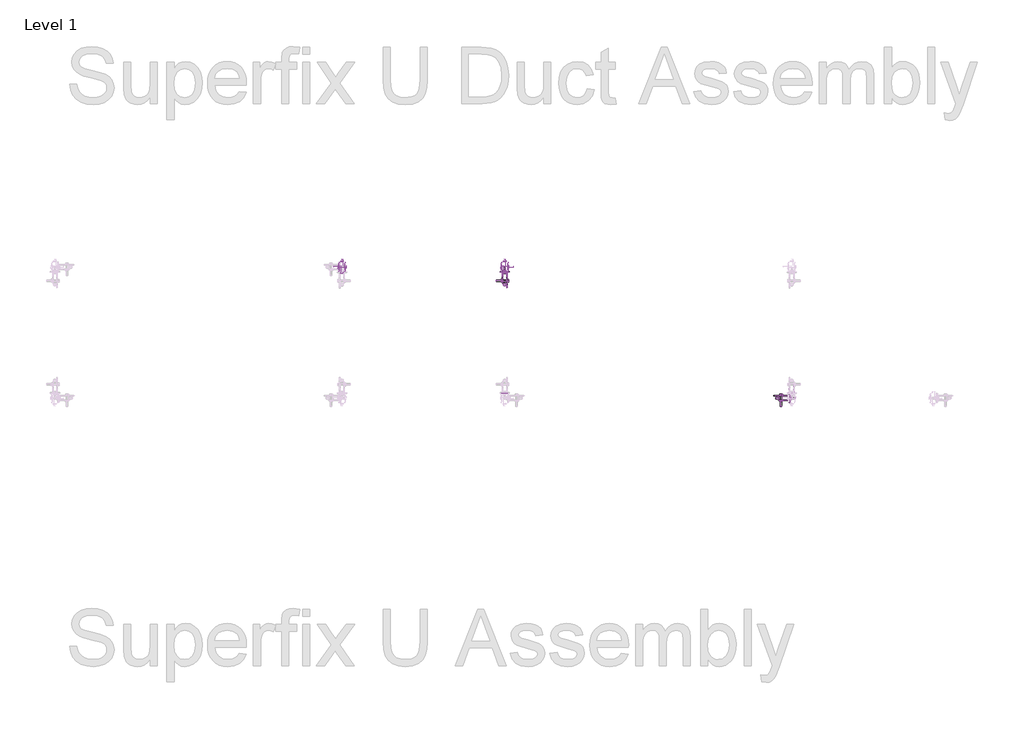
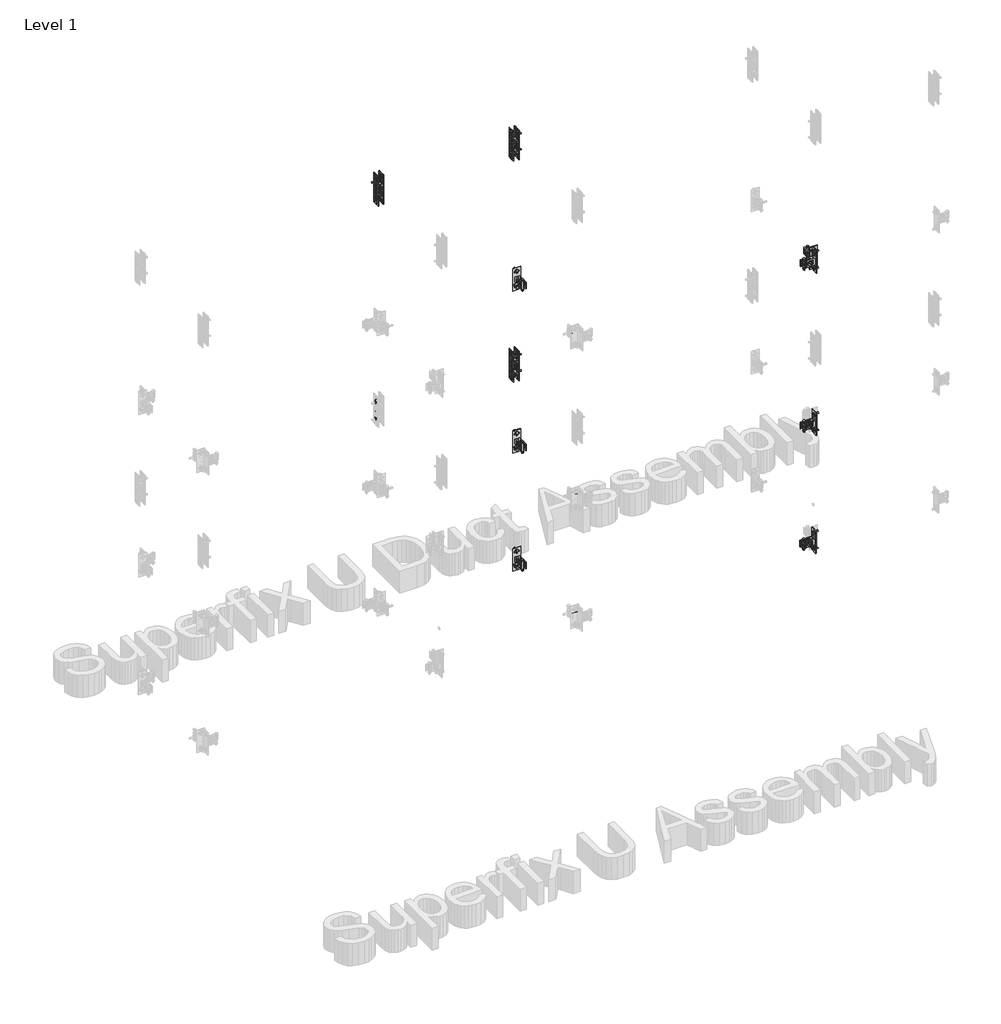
# One storey, part 12 of 32: 144 valves.
"""IFC4 building model written with IfcOpenShell, lengths in millimetres."""

from ifc_helpers import new_model, si_unit, origin, place, context, project, spatial, transform, mapped, element, save
from components import valve_fad8a5b8, hexagon_nut_galvanized_extra_m8_53389388, superfix_hexagon_screw_galvanized_8354a985, superfix_hexagon_screw_galvanized_f0d66714, superfix_hexagon_screw_galvanized_68d17cb7, superfix_hexagon_screw_galvanized_e39b877e, superfix_hexagon_screw_galvanized_3ef5af78, superfix_hexagon_screw_galvanized_3d7df342, superfix_strap_981cfdac, superfix_u_658711f6, superfix_u_31397e19, superfix_u_bracket_h_0b8578fe, superfix_u_bracket_h_f60a1122

model = new_model("IFC4")

# Units and contexts
model_context = context("Model", 3, world=origin())
ifc_project = project(units=[si_unit("LENGTHUNIT", "METRE", prefix="MILLI")], contexts=[model_context])

# Site, building, storey
site = spatial("IfcSite", under=ifc_project)
building = spatial("IfcBuilding", under=site)
storey = spatial("IfcBuildingStorey", under=building, Name="Level 1", Elevation=0.0)

# Valves
placement = place(None, origin())
valve_shape = valve_fad8a5b8(model_context)
element("IfcValve", 1, ObjectType="Superfix Flat Washer : Superfix Flat Washer M8x15x1.5", at=placement, inside=storey, context=model_context, shape_type="MappedRepresentation", body=[
    mapped(valve_shape, transform((-18766.450626, 28765.46055, 700.0), x_axis=(1.0, 0.0, 0.0), y_axis=(0.0, 0.0, 1.0), z_axis=(0.0, -1.0, 0.0))),
])
element("IfcValve", 2, ObjectType="Superfix Flat Washer : Superfix Flat Washer M8x15x1.5", at=placement, inside=storey, context=model_context, shape_type="MappedRepresentation", body=[
    mapped(valve_shape, transform((-18715.450626, 28777.96055, 758.0), x_axis=(0.0, 0.0, 1.0), y_axis=(0.0, 1.0, 0.0), z_axis=(-1.0, 0.0, 0.0))),
])
element("IfcValve", 3, ObjectType="Superfix Flat Washer : Superfix Flat Washer M8x15x1.5", at=placement, inside=storey, context=model_context, shape_type="MappedRepresentation", body=[
    mapped(valve_shape, transform((-18715.450626, 28777.96055, 642.0), x_axis=(0.0, 0.0, 1.0), y_axis=(0.0, 1.0, 0.0), z_axis=(-1.0, 0.0, 0.0))),
])
element("IfcValve", 4, ObjectType="Superfix Flat Washer : Superfix Flat Washer M8x15x1.5", at=placement, inside=storey, context=model_context, shape_type="MappedRepresentation", body=[
    mapped(valve_shape, transform((-18786.450626, 28777.96055, 671.5), x_axis=(1.0, 0.0, 0.0), y_axis=(0.0, -1.0, 0.0), z_axis=(0.0, 0.0, -1.0))),
])
element("IfcValve", 5, ObjectType="Superfix Flat Washer : Superfix Flat Washer M8x15x1.5", at=placement, inside=storey, context=model_context, shape_type="MappedRepresentation", body=[
    mapped(valve_shape, transform((-18763.450626, 28765.46055, 2600.0), x_axis=(1.0, 0.0, 0.0), y_axis=(0.0, 0.0, 1.0), z_axis=(0.0, -1.0, 0.0))),
])
element("IfcValve", 6, ObjectType="Superfix Flat Washer : Superfix Flat Washer M8x15x1.5", at=placement, inside=storey, context=model_context, shape_type="MappedRepresentation", body=[
    mapped(valve_shape, transform((-18712.450626, 28777.96055, 2658.0), x_axis=(0.0, 0.0, 1.0), y_axis=(0.0, 1.0, 0.0), z_axis=(-1.0, 0.0, 0.0))),
])
element("IfcValve", 7, ObjectType="Superfix Flat Washer : Superfix Flat Washer M8x15x1.5", at=placement, inside=storey, context=model_context, shape_type="MappedRepresentation", body=[
    mapped(valve_shape, transform((-18712.450626, 28777.96055, 2542.0), x_axis=(0.0, 0.0, 1.0), y_axis=(0.0, 1.0, 0.0), z_axis=(-1.0, 0.0, 0.0))),
])
element("IfcValve", 8, ObjectType="Superfix Flat Washer : Superfix Flat Washer M8x15x1.5", at=placement, inside=storey, context=model_context, shape_type="MappedRepresentation", body=[
    mapped(valve_shape, transform((-18783.450626, 28777.96055, 2571.5), x_axis=(1.0, 0.0, 0.0), y_axis=(0.0, -1.0, 0.0), z_axis=(0.0, 0.0, -1.0))),
])
element("IfcValve", 9, ObjectType="Superfix Flat Washer : Superfix Flat Washer M8x15x1.5", at=placement, inside=storey, context=model_context, shape_type="MappedRepresentation", body=[
    mapped(valve_shape, transform((-18763.450626, 28765.46055, 1500.0), x_axis=(1.0, 0.0, 0.0), y_axis=(0.0, 0.0, 1.0), z_axis=(0.0, -1.0, 0.0))),
])
element("IfcValve", 10, ObjectType="Superfix Flat Washer : Superfix Flat Washer M8x15x1.5", at=placement, inside=storey, context=model_context, shape_type="MappedRepresentation", body=[
    mapped(valve_shape, transform((-18712.450626, 28777.96055, 1558.0), x_axis=(0.0, 0.0, 1.0), y_axis=(0.0, 1.0, 0.0), z_axis=(-1.0, 0.0, 0.0))),
])
element("IfcValve", 11, ObjectType="Superfix Flat Washer : Superfix Flat Washer M8x15x1.5", at=placement, inside=storey, context=model_context, shape_type="MappedRepresentation", body=[
    mapped(valve_shape, transform((-18712.450626, 28777.96055, 1442.0), x_axis=(0.0, 0.0, 1.0), y_axis=(0.0, 1.0, 0.0), z_axis=(-1.0, 0.0, 0.0))),
])
element("IfcValve", 12, ObjectType="Superfix Flat Washer : Superfix Flat Washer M8x15x1.5", at=placement, inside=storey, context=model_context, shape_type="MappedRepresentation", body=[
    mapped(valve_shape, transform((-18783.450626, 28777.96055, 1471.5), x_axis=(1.0, 0.0, 0.0), y_axis=(0.0, -1.0, 0.0), z_axis=(0.0, 0.0, -1.0))),
])
element("IfcValve", 13, ObjectType="Superfix Flat Washer : Superfix Flat Washer M8x15x1.5", at=placement, inside=storey, context=model_context, shape_type="MappedRepresentation", body=[
    mapped(valve_shape, transform((-18695.950626, 28851.96055, 2600.0), x_axis=(0.0, 1.0, 0.0), y_axis=(0.0, 0.0, 1.0), z_axis=(1.0, 0.0, 0.0))),
])
element("IfcValve", 14, ObjectType="Superfix Flat Washer : Superfix Flat Washer M8x15x1.5", at=placement, inside=storey, context=model_context, shape_type="MappedRepresentation", body=[
    mapped(valve_shape, transform((-18708.450626, 28802.56055, 2542.0), x_axis=(0.0, 0.0, 1.0), y_axis=(-1.0, 0.0, 0.0), z_axis=(0.0, -1.0, 0.0))),
])
element("IfcValve", 15, ObjectType="Superfix Flat Washer : Superfix Flat Washer M8x15x1.5", at=placement, inside=storey, context=model_context, shape_type="MappedRepresentation", body=[
    mapped(valve_shape, transform((-18708.450626, 28802.56055, 2658.0), x_axis=(0.0, 0.0, 1.0), y_axis=(-1.0, 0.0, 0.0), z_axis=(0.0, -1.0, 0.0))),
])
element("IfcValve", 16, ObjectType="Superfix Flat Washer : Superfix Flat Washer M8x15x1.5", at=placement, inside=storey, context=model_context, shape_type="MappedRepresentation", body=[
    mapped(valve_shape, transform((-18708.450626, 28871.96055, 2571.5), x_axis=(0.0, 1.0, 0.0), y_axis=(1.0, 0.0, 0.0), z_axis=(0.0, 0.0, -1.0))),
])
element("IfcValve", 17, ObjectType="Superfix Flat Washer : Superfix Flat Washer M8x15x1.5", at=placement, inside=storey, context=model_context, shape_type="MappedRepresentation", body=[
    mapped(valve_shape, transform((-20252.950626, 29403.96055, 2600.0), x_axis=(0.0, -1.0, 0.0), y_axis=(0.0, 0.0, 1.0), z_axis=(-1.0, 0.0, 0.0))),
])
element("IfcValve", 18, ObjectType="Superfix Flat Washer : Superfix Flat Washer M8x15x1.5", at=placement, inside=storey, context=model_context, shape_type="MappedRepresentation", body=[
    mapped(valve_shape, transform((-20240.450626, 29453.36055, 2542.0), x_axis=(0.0, 0.0, 1.0), y_axis=(1.0, 0.0, 0.0), z_axis=(0.0, 1.0, 0.0))),
])
element("IfcValve", 19, ObjectType="Superfix Flat Washer : Superfix Flat Washer M8x15x1.5", at=placement, inside=storey, context=model_context, shape_type="MappedRepresentation", body=[
    mapped(valve_shape, transform((-20240.450626, 29453.36055, 2658.0), x_axis=(0.0, 0.0, 1.0), y_axis=(1.0, 0.0, 0.0), z_axis=(0.0, 1.0, 0.0))),
])
element("IfcValve", 20, ObjectType="Superfix Flat Washer : Superfix Flat Washer M8x15x1.5", at=placement, inside=storey, context=model_context, shape_type="MappedRepresentation", body=[
    mapped(valve_shape, transform((-20240.450626, 29383.96055, 2571.5), x_axis=(0.0, -1.0, 0.0), y_axis=(-1.0, 0.0, 0.0), z_axis=(0.0, 0.0, -1.0))),
])
element("IfcValve", 21, ObjectType="Superfix Flat Washer : Superfix Flat Washer M8x15x1.5", at=placement, inside=storey, context=model_context, shape_type="MappedRepresentation", body=[
    mapped(valve_shape, transform((-20252.950626, 29403.96055, 1500.0), x_axis=(0.0, -1.0, 0.0), y_axis=(0.0, 0.0, 1.0), z_axis=(-1.0, 0.0, 0.0))),
])
element("IfcValve", 22, ObjectType="Superfix Flat Washer : Superfix Flat Washer M8x15x1.5", at=placement, inside=storey, context=model_context, shape_type="MappedRepresentation", body=[
    mapped(valve_shape, transform((-20240.450626, 29453.36055, 1442.0), x_axis=(0.0, 0.0, 1.0), y_axis=(1.0, 0.0, 0.0), z_axis=(0.0, 1.0, 0.0))),
])
element("IfcValve", 23, ObjectType="Superfix Flat Washer : Superfix Flat Washer M8x15x1.5", at=placement, inside=storey, context=model_context, shape_type="MappedRepresentation", body=[
    mapped(valve_shape, transform((-20240.450626, 29453.36055, 1558.0), x_axis=(0.0, 0.0, 1.0), y_axis=(1.0, 0.0, 0.0), z_axis=(0.0, 1.0, 0.0))),
])
element("IfcValve", 24, ObjectType="Superfix Flat Washer : Superfix Flat Washer M8x15x1.5", at=placement, inside=storey, context=model_context, shape_type="MappedRepresentation", body=[
    mapped(valve_shape, transform((-20240.450626, 29383.96055, 1471.5), x_axis=(0.0, -1.0, 0.0), y_axis=(-1.0, 0.0, 0.0), z_axis=(0.0, 0.0, -1.0))),
])
element("IfcValve", 25, ObjectType="Superfix Flat Washer : Superfix Flat Washer M8x15x1.5", at=placement, inside=storey, context=model_context, shape_type="MappedRepresentation", body=[
    mapped(valve_shape, transform((-20252.950626, 29404.96055, 700.0), x_axis=(0.0, -1.0, 0.0), y_axis=(0.0, 0.0, 1.0), z_axis=(-1.0, 0.0, 0.0))),
])
element("IfcValve", 26, ObjectType="Superfix Flat Washer : Superfix Flat Washer M8x15x1.5", at=placement, inside=storey, context=model_context, shape_type="MappedRepresentation", body=[
    mapped(valve_shape, transform((-20240.450626, 29454.36055, 642.0), x_axis=(0.0, 0.0, 1.0), y_axis=(1.0, 0.0, 0.0), z_axis=(0.0, 1.0, 0.0))),
])
element("IfcValve", 27, ObjectType="Superfix Flat Washer : Superfix Flat Washer M8x15x1.5", at=placement, inside=storey, context=model_context, shape_type="MappedRepresentation", body=[
    mapped(valve_shape, transform((-20240.450626, 29454.36055, 758.0), x_axis=(0.0, 0.0, 1.0), y_axis=(1.0, 0.0, 0.0), z_axis=(0.0, 1.0, 0.0))),
])
element("IfcValve", 28, ObjectType="Superfix Flat Washer : Superfix Flat Washer M8x15x1.5", at=placement, inside=storey, context=model_context, shape_type="MappedRepresentation", body=[
    mapped(valve_shape, transform((-20240.450626, 29384.96055, 671.5), x_axis=(0.0, -1.0, 0.0), y_axis=(-1.0, 0.0, 0.0), z_axis=(0.0, 0.0, -1.0))),
])
element("IfcValve", 29, ObjectType="Superfix Flat Washer : Superfix Flat Washer M8x15x1.5", at=placement, inside=storey, context=model_context, shape_type="MappedRepresentation", body=[
    mapped(valve_shape, transform((-21108.450626, 29508.06055, 2040.0), x_axis=(1.0, 0.0, 0.0), y_axis=(0.0, 0.0, 1.0), z_axis=(0.0, -1.0, 0.0))),
])
element("IfcValve", 30, ObjectType="Superfix Flat Washer : Superfix Flat Washer M8x15x1.5", at=placement, inside=storey, context=model_context, shape_type="MappedRepresentation", body=[
    mapped(valve_shape, transform((-21108.450626, 29508.06055, 1960.0), x_axis=(1.0, 0.0, 0.0), y_axis=(0.0, 0.0, 1.0), z_axis=(0.0, -1.0, 0.0))),
])
element("IfcValve", 31, ObjectType="Superfix Flat Washer : Superfix Flat Washer M8x15x1.5", at=placement, inside=storey, context=model_context, shape_type="MappedRepresentation", body=[
    mapped(valve_shape, transform((-21126.050626, 29477.96055, 3555.0), x_axis=(0.0, 1.0, 0.0), y_axis=(0.0, 0.0, 1.0), z_axis=(1.0, 0.0, 0.0))),
])
element("IfcValve", 32, ObjectType="Superfix Flat Washer : Superfix Flat Washer M8x15x1.5", at=placement, inside=storey, context=model_context, shape_type="MappedRepresentation", body=[
    mapped(valve_shape, transform((-21126.050626, 29477.96055, 3445.0), x_axis=(0.0, 1.0, 0.0), y_axis=(0.0, 0.0, 1.0), z_axis=(1.0, 0.0, 0.0))),
])
element("IfcValve", 33, ObjectType="Superfix Flat Washer : Superfix Flat Washer M8x15x1.5", at=placement, inside=storey, context=model_context, shape_type="MappedRepresentation", body=[
    mapped(valve_shape, transform((-21108.450626, 29508.06055, 3540.0), x_axis=(1.0, 0.0, 0.0), y_axis=(0.0, 0.0, 1.0), z_axis=(0.0, -1.0, 0.0))),
])
element("IfcValve", 34, ObjectType="Superfix Flat Washer : Superfix Flat Washer M8x15x1.5", at=placement, inside=storey, context=model_context, shape_type="MappedRepresentation", body=[
    mapped(valve_shape, transform((-21108.450626, 29508.06055, 3460.0), x_axis=(1.0, 0.0, 0.0), y_axis=(0.0, 0.0, 1.0), z_axis=(0.0, -1.0, 0.0))),
])
element("IfcValve", 35, ObjectType="Superfix Flat Washer : Superfix Flat Washer M8x15x1.5", at=placement, inside=storey, context=model_context, shape_type="MappedRepresentation", body=[
    mapped(valve_shape, transform((-20224.450626, 29477.96055, 1945.0), x_axis=(0.0, 1.0, 0.0), y_axis=(0.0, 0.0, 1.0), z_axis=(1.0, 0.0, 0.0))),
])
element("IfcValve", 36, ObjectType="Superfix Flat Washer : Superfix Flat Washer M8x15x1.5", at=placement, inside=storey, context=model_context, shape_type="MappedRepresentation", body=[
    mapped(valve_shape, transform((-20224.450626, 29477.96055, 2055.0), x_axis=(0.0, 1.0, 0.0), y_axis=(0.0, 0.0, 1.0), z_axis=(1.0, 0.0, 0.0))),
])
element("IfcValve", 37, ObjectType="Superfix Flat Washer : Superfix Flat Washer M8x15x1.5", at=placement, inside=storey, context=model_context, shape_type="MappedRepresentation", body=[
    mapped(valve_shape, transform((-20240.450626, 29508.06055, 2040.0), x_axis=(1.0, 0.0, 0.0), y_axis=(0.0, 0.0, 1.0), z_axis=(0.0, -1.0, 0.0))),
])
element("IfcValve", 38, ObjectType="Superfix Flat Washer : Superfix Flat Washer M8x15x1.5", at=placement, inside=storey, context=model_context, shape_type="MappedRepresentation", body=[
    mapped(valve_shape, transform((-20240.450626, 29508.06055, 1960.0), x_axis=(1.0, 0.0, 0.0), y_axis=(0.0, 0.0, 1.0), z_axis=(0.0, -1.0, 0.0))),
])
element("IfcValve", 39, ObjectType="Superfix Flat Washer : Superfix Flat Washer M8x15x1.5", at=placement, inside=storey, context=model_context, shape_type="MappedRepresentation", body=[
    mapped(valve_shape, transform((-20224.450626, 29477.96055, 3445.0), x_axis=(0.0, 1.0, 0.0), y_axis=(0.0, 0.0, 1.0), z_axis=(1.0, 0.0, 0.0))),
])
element("IfcValve", 40, ObjectType="Superfix Flat Washer : Superfix Flat Washer M8x15x1.5", at=placement, inside=storey, context=model_context, shape_type="MappedRepresentation", body=[
    mapped(valve_shape, transform((-20224.450626, 29477.96055, 3555.0), x_axis=(0.0, 1.0, 0.0), y_axis=(0.0, 0.0, 1.0), z_axis=(1.0, 0.0, 0.0))),
])
element("IfcValve", 41, ObjectType="Superfix Flat Washer : Superfix Flat Washer M8x15x1.5", at=placement, inside=storey, context=model_context, shape_type="MappedRepresentation", body=[
    mapped(valve_shape, transform((-20240.450626, 29508.06055, 3540.0), x_axis=(1.0, 0.0, 0.0), y_axis=(0.0, 0.0, 1.0), z_axis=(0.0, -1.0, 0.0))),
])
element("IfcValve", 42, ObjectType="Superfix Flat Washer : Superfix Flat Washer M8x15x1.5", at=placement, inside=storey, context=model_context, shape_type="MappedRepresentation", body=[
    mapped(valve_shape, transform((-20240.450626, 29508.06055, 3460.0), x_axis=(1.0, 0.0, 0.0), y_axis=(0.0, 0.0, 1.0), z_axis=(0.0, -1.0, 0.0))),
])
hexagon_nut_galvanized_extra_m8_shape = hexagon_nut_galvanized_extra_m8_53389388(model_context)
element("IfcValve", 43, ObjectType="Superfix Hexagon Nut Galvanized : Hexagon Nut Galvanized M8", at=placement, inside=storey, context=model_context, shape_type="MappedRepresentation", body=[
    mapped(hexagon_nut_galvanized_extra_m8_shape, transform((-18766.450626, 28765.46055, 700.0), x_axis=(1.0, 0.0, 0.0), y_axis=(0.0, 0.0, 1.0), z_axis=(0.0, -1.0, 0.0))),
])
element("IfcValve", 44, ObjectType="Superfix Hexagon Nut Galvanized : Hexagon Nut Galvanized M8", at=placement, inside=storey, context=model_context, shape_type="MappedRepresentation", body=[
    mapped(hexagon_nut_galvanized_extra_m8_shape, transform((-18786.450626, 28777.96055, 665.0), x_axis=(0.0, 1.0, 0.0), y_axis=(-1.0, 0.0, 0.0), z_axis=(0.0, 0.0, 1.0))),
])
element("IfcValve", 45, ObjectType="Superfix Hexagon Nut Galvanized : Hexagon Nut Galvanized M8", at=placement, inside=storey, context=model_context, shape_type="MappedRepresentation", body=[
    mapped(hexagon_nut_galvanized_extra_m8_shape, transform((-18708.950626, 28777.96055, 642.0), x_axis=(0.0, 0.0, 1.0), y_axis=(0.0, 1.0, 0.0), z_axis=(-1.0, 0.0, 0.0))),
])
element("IfcValve", 46, ObjectType="Superfix Hexagon Nut Galvanized : Hexagon Nut Galvanized M8", at=placement, inside=storey, context=model_context, shape_type="MappedRepresentation", body=[
    mapped(hexagon_nut_galvanized_extra_m8_shape, transform((-18708.950626, 28777.96055, 758.0), x_axis=(0.0, 0.0, 1.0), y_axis=(0.0, 1.0, 0.0), z_axis=(-1.0, 0.0, 0.0))),
])
element("IfcValve", 47, ObjectType="Superfix Hexagon Nut Galvanized : Hexagon Nut Galvanized M8", at=placement, inside=storey, context=model_context, shape_type="MappedRepresentation", body=[
    mapped(hexagon_nut_galvanized_extra_m8_shape, transform((-18763.450626, 28765.46055, 2600.0), x_axis=(1.0, 0.0, 0.0), y_axis=(0.0, 0.0, 1.0), z_axis=(0.0, -1.0, 0.0))),
])
element("IfcValve", 48, ObjectType="Superfix Hexagon Nut Galvanized : Hexagon Nut Galvanized M8", at=placement, inside=storey, context=model_context, shape_type="MappedRepresentation", body=[
    mapped(hexagon_nut_galvanized_extra_m8_shape, transform((-18783.450626, 28777.96055, 2565.0), x_axis=(0.0, 1.0, 0.0), y_axis=(-1.0, 0.0, 0.0), z_axis=(0.0, 0.0, 1.0))),
])
element("IfcValve", 49, ObjectType="Superfix Hexagon Nut Galvanized : Hexagon Nut Galvanized M8", at=placement, inside=storey, context=model_context, shape_type="MappedRepresentation", body=[
    mapped(hexagon_nut_galvanized_extra_m8_shape, transform((-18705.950626, 28777.96055, 2542.0), x_axis=(0.0, 0.0, 1.0), y_axis=(0.0, 1.0, 0.0), z_axis=(-1.0, 0.0, 0.0))),
])
element("IfcValve", 50, ObjectType="Superfix Hexagon Nut Galvanized : Hexagon Nut Galvanized M8", at=placement, inside=storey, context=model_context, shape_type="MappedRepresentation", body=[
    mapped(hexagon_nut_galvanized_extra_m8_shape, transform((-18705.950626, 28777.96055, 2658.0), x_axis=(0.0, 0.0, 1.0), y_axis=(0.0, 1.0, 0.0), z_axis=(-1.0, 0.0, 0.0))),
])
element("IfcValve", 51, ObjectType="Superfix Hexagon Nut Galvanized : Hexagon Nut Galvanized M8", at=placement, inside=storey, context=model_context, shape_type="MappedRepresentation", body=[
    mapped(hexagon_nut_galvanized_extra_m8_shape, transform((-18763.450626, 28765.46055, 1500.0), x_axis=(1.0, 0.0, 0.0), y_axis=(0.0, 0.0, 1.0), z_axis=(0.0, -1.0, 0.0))),
])
element("IfcValve", 52, ObjectType="Superfix Hexagon Nut Galvanized : Hexagon Nut Galvanized M8", at=placement, inside=storey, context=model_context, shape_type="MappedRepresentation", body=[
    mapped(hexagon_nut_galvanized_extra_m8_shape, transform((-18783.450626, 28777.96055, 1465.0), x_axis=(0.0, 1.0, 0.0), y_axis=(-1.0, 0.0, 0.0), z_axis=(0.0, 0.0, 1.0))),
])
element("IfcValve", 53, ObjectType="Superfix Hexagon Nut Galvanized : Hexagon Nut Galvanized M8", at=placement, inside=storey, context=model_context, shape_type="MappedRepresentation", body=[
    mapped(hexagon_nut_galvanized_extra_m8_shape, transform((-18705.950626, 28777.96055, 1442.0), x_axis=(0.0, 0.0, 1.0), y_axis=(0.0, 1.0, 0.0), z_axis=(-1.0, 0.0, 0.0))),
])
element("IfcValve", 54, ObjectType="Superfix Hexagon Nut Galvanized : Hexagon Nut Galvanized M8", at=placement, inside=storey, context=model_context, shape_type="MappedRepresentation", body=[
    mapped(hexagon_nut_galvanized_extra_m8_shape, transform((-18705.950626, 28777.96055, 1558.0), x_axis=(0.0, 0.0, 1.0), y_axis=(0.0, 1.0, 0.0), z_axis=(-1.0, 0.0, 0.0))),
])
element("IfcValve", 55, ObjectType="Superfix Hexagon Nut Galvanized : Hexagon Nut Galvanized M8", at=placement, inside=storey, context=model_context, shape_type="MappedRepresentation", body=[
    mapped(hexagon_nut_galvanized_extra_m8_shape, transform((-18695.950626, 28851.96055, 2600.0), x_axis=(0.0, -1.0, 0.0), y_axis=(0.0, 0.0, -1.0), z_axis=(1.0, 0.0, 0.0))),
])
element("IfcValve", 56, ObjectType="Superfix Hexagon Nut Galvanized : Hexagon Nut Galvanized M8", at=placement, inside=storey, context=model_context, shape_type="MappedRepresentation", body=[
    mapped(hexagon_nut_galvanized_extra_m8_shape, transform((-18708.450626, 28871.96055, 2565.0), x_axis=(-1.0, 0.0, 0.0), y_axis=(0.0, -1.0, 0.0), z_axis=(0.0, 0.0, 1.0))),
])
element("IfcValve", 57, ObjectType="Superfix Hexagon Nut Galvanized : Hexagon Nut Galvanized M8", at=placement, inside=storey, context=model_context, shape_type="MappedRepresentation", body=[
    mapped(hexagon_nut_galvanized_extra_m8_shape, transform((-18708.450626, 28794.46055, 2542.0), x_axis=(0.0, 0.0, 1.0), y_axis=(1.0, 0.0, 0.0), z_axis=(0.0, 1.0, 0.0))),
])
element("IfcValve", 58, ObjectType="Superfix Hexagon Nut Galvanized : Hexagon Nut Galvanized M8", at=placement, inside=storey, context=model_context, shape_type="MappedRepresentation", body=[
    mapped(hexagon_nut_galvanized_extra_m8_shape, transform((-18708.450626, 28794.46055, 2658.0), x_axis=(0.0, 0.0, 1.0), y_axis=(1.0, 0.0, 0.0), z_axis=(0.0, 1.0, 0.0))),
])
element("IfcValve", 59, ObjectType="Superfix Hexagon Nut Galvanized : Hexagon Nut Galvanized M8", at=placement, inside=storey, context=model_context, shape_type="MappedRepresentation", body=[
    mapped(hexagon_nut_galvanized_extra_m8_shape, transform((-20252.950626, 29403.96055, 2600.0), x_axis=(0.0, 1.0, 0.0), y_axis=(0.0, 0.0, -1.0), z_axis=(-1.0, 0.0, 0.0))),
])
element("IfcValve", 60, ObjectType="Superfix Hexagon Nut Galvanized : Hexagon Nut Galvanized M8", at=placement, inside=storey, context=model_context, shape_type="MappedRepresentation", body=[
    mapped(hexagon_nut_galvanized_extra_m8_shape, transform((-20240.450626, 29383.96055, 2565.0), x_axis=(1.0, 0.0, 0.0), y_axis=(0.0, 1.0, 0.0), z_axis=(0.0, 0.0, 1.0))),
])
element("IfcValve", 61, ObjectType="Superfix Hexagon Nut Galvanized : Hexagon Nut Galvanized M8", at=placement, inside=storey, context=model_context, shape_type="MappedRepresentation", body=[
    mapped(hexagon_nut_galvanized_extra_m8_shape, transform((-20240.450626, 29461.46055, 2542.0), x_axis=(0.0, 0.0, 1.0), y_axis=(-1.0, 0.0, 0.0), z_axis=(0.0, -1.0, 0.0))),
])
element("IfcValve", 62, ObjectType="Superfix Hexagon Nut Galvanized : Hexagon Nut Galvanized M8", at=placement, inside=storey, context=model_context, shape_type="MappedRepresentation", body=[
    mapped(hexagon_nut_galvanized_extra_m8_shape, transform((-20240.450626, 29461.46055, 2658.0), x_axis=(0.0, 0.0, 1.0), y_axis=(-1.0, 0.0, 0.0), z_axis=(0.0, -1.0, 0.0))),
])
element("IfcValve", 63, ObjectType="Superfix Hexagon Nut Galvanized : Hexagon Nut Galvanized M8", at=placement, inside=storey, context=model_context, shape_type="MappedRepresentation", body=[
    mapped(hexagon_nut_galvanized_extra_m8_shape, transform((-20252.950626, 29403.96055, 1500.0), x_axis=(0.0, 1.0, 0.0), y_axis=(0.0, 0.0, -1.0), z_axis=(-1.0, 0.0, 0.0))),
])
element("IfcValve", 64, ObjectType="Superfix Hexagon Nut Galvanized : Hexagon Nut Galvanized M8", at=placement, inside=storey, context=model_context, shape_type="MappedRepresentation", body=[
    mapped(hexagon_nut_galvanized_extra_m8_shape, transform((-20240.450626, 29383.96055, 1465.0), x_axis=(1.0, 0.0, 0.0), y_axis=(0.0, 1.0, 0.0), z_axis=(0.0, 0.0, 1.0))),
])
element("IfcValve", 65, ObjectType="Superfix Hexagon Nut Galvanized : Hexagon Nut Galvanized M8", at=placement, inside=storey, context=model_context, shape_type="MappedRepresentation", body=[
    mapped(hexagon_nut_galvanized_extra_m8_shape, transform((-20240.450626, 29461.46055, 1442.0), x_axis=(0.0, 0.0, 1.0), y_axis=(-1.0, 0.0, 0.0), z_axis=(0.0, -1.0, 0.0))),
])
element("IfcValve", 66, ObjectType="Superfix Hexagon Nut Galvanized : Hexagon Nut Galvanized M8", at=placement, inside=storey, context=model_context, shape_type="MappedRepresentation", body=[
    mapped(hexagon_nut_galvanized_extra_m8_shape, transform((-20240.450626, 29461.46055, 1558.0), x_axis=(0.0, 0.0, 1.0), y_axis=(-1.0, 0.0, 0.0), z_axis=(0.0, -1.0, 0.0))),
])
element("IfcValve", 67, ObjectType="Superfix Hexagon Nut Galvanized : Hexagon Nut Galvanized M8", at=placement, inside=storey, context=model_context, shape_type="MappedRepresentation", body=[
    mapped(hexagon_nut_galvanized_extra_m8_shape, transform((-20252.950626, 29404.96055, 700.0), x_axis=(0.0, 1.0, 0.0), y_axis=(0.0, 0.0, -1.0), z_axis=(-1.0, 0.0, 0.0))),
])
element("IfcValve", 68, ObjectType="Superfix Hexagon Nut Galvanized : Hexagon Nut Galvanized M8", at=placement, inside=storey, context=model_context, shape_type="MappedRepresentation", body=[
    mapped(hexagon_nut_galvanized_extra_m8_shape, transform((-20240.450626, 29384.96055, 665.0), x_axis=(1.0, 0.0, 0.0), y_axis=(0.0, 1.0, 0.0), z_axis=(0.0, 0.0, 1.0))),
])
element("IfcValve", 69, ObjectType="Superfix Hexagon Nut Galvanized : Hexagon Nut Galvanized M8", at=placement, inside=storey, context=model_context, shape_type="MappedRepresentation", body=[
    mapped(hexagon_nut_galvanized_extra_m8_shape, transform((-20240.450626, 29462.46055, 642.0), x_axis=(0.0, 0.0, 1.0), y_axis=(-1.0, 0.0, 0.0), z_axis=(0.0, -1.0, 0.0))),
])
element("IfcValve", 70, ObjectType="Superfix Hexagon Nut Galvanized : Hexagon Nut Galvanized M8", at=placement, inside=storey, context=model_context, shape_type="MappedRepresentation", body=[
    mapped(hexagon_nut_galvanized_extra_m8_shape, transform((-20240.450626, 29462.46055, 758.0), x_axis=(0.0, 0.0, 1.0), y_axis=(-1.0, 0.0, 0.0), z_axis=(0.0, -1.0, 0.0))),
])
element("IfcValve", 71, ObjectType="Superfix Hexagon Nut Galvanized : Hexagon Nut Galvanized M8", at=placement, inside=storey, context=model_context, shape_type="MappedRepresentation", body=[
    mapped(hexagon_nut_galvanized_extra_m8_shape, transform((-21124.450626, 29477.96055, 2055.0), x_axis=(0.0, 1.0, 0.0), y_axis=(0.0, 0.0, -1.0), z_axis=(-1.0, 0.0, 0.0))),
])
element("IfcValve", 72, ObjectType="Superfix Hexagon Nut Galvanized : Hexagon Nut Galvanized M8", at=placement, inside=storey, context=model_context, shape_type="MappedRepresentation", body=[
    mapped(hexagon_nut_galvanized_extra_m8_shape, transform((-21124.450626, 29477.96055, 1945.0), x_axis=(0.0, 1.0, 0.0), y_axis=(0.0, 0.0, -1.0), z_axis=(-1.0, 0.0, 0.0))),
])
element("IfcValve", 73, ObjectType="Superfix Hexagon Nut Galvanized : Hexagon Nut Galvanized M8", at=placement, inside=storey, context=model_context, shape_type="MappedRepresentation", body=[
    mapped(hexagon_nut_galvanized_extra_m8_shape, transform((-21108.450626, 29512.96055, 2040.0), x_axis=(1.0, 0.0, 0.0), y_axis=(0.0, 0.0, 1.0), z_axis=(0.0, -1.0, 0.0))),
])
element("IfcValve", 74, ObjectType="Superfix Hexagon Nut Galvanized : Hexagon Nut Galvanized M8", at=placement, inside=storey, context=model_context, shape_type="MappedRepresentation", body=[
    mapped(hexagon_nut_galvanized_extra_m8_shape, transform((-21108.450626, 29512.96055, 1960.0), x_axis=(1.0, 0.0, 0.0), y_axis=(0.0, 0.0, 1.0), z_axis=(0.0, -1.0, 0.0))),
])
element("IfcValve", 75, ObjectType="Superfix Hexagon Nut Galvanized : Hexagon Nut Galvanized M8", at=placement, inside=storey, context=model_context, shape_type="MappedRepresentation", body=[
    mapped(hexagon_nut_galvanized_extra_m8_shape, transform((-21124.450626, 29477.96055, 3555.0), x_axis=(0.0, 1.0, 0.0), y_axis=(0.0, 0.0, -1.0), z_axis=(-1.0, 0.0, 0.0))),
])
element("IfcValve", 76, ObjectType="Superfix Hexagon Nut Galvanized : Hexagon Nut Galvanized M8", at=placement, inside=storey, context=model_context, shape_type="MappedRepresentation", body=[
    mapped(hexagon_nut_galvanized_extra_m8_shape, transform((-21124.450626, 29477.96055, 3445.0), x_axis=(0.0, 1.0, 0.0), y_axis=(0.0, 0.0, -1.0), z_axis=(-1.0, 0.0, 0.0))),
])
element("IfcValve", 77, ObjectType="Superfix Hexagon Nut Galvanized : Hexagon Nut Galvanized M8", at=placement, inside=storey, context=model_context, shape_type="MappedRepresentation", body=[
    mapped(hexagon_nut_galvanized_extra_m8_shape, transform((-21108.450626, 29512.96055, 3540.0), x_axis=(1.0, 0.0, 0.0), y_axis=(0.0, 0.0, 1.0), z_axis=(0.0, -1.0, 0.0))),
])
element("IfcValve", 78, ObjectType="Superfix Hexagon Nut Galvanized : Hexagon Nut Galvanized M8", at=placement, inside=storey, context=model_context, shape_type="MappedRepresentation", body=[
    mapped(hexagon_nut_galvanized_extra_m8_shape, transform((-21108.450626, 29512.96055, 3460.0), x_axis=(1.0, 0.0, 0.0), y_axis=(0.0, 0.0, 1.0), z_axis=(0.0, -1.0, 0.0))),
])
element("IfcValve", 79, ObjectType="Superfix Hexagon Nut Galvanized : Hexagon Nut Galvanized M8", at=placement, inside=storey, context=model_context, shape_type="MappedRepresentation", body=[
    mapped(hexagon_nut_galvanized_extra_m8_shape, transform((-20224.450626, 29477.96055, 2055.0), x_axis=(0.0, 1.0, 0.0), y_axis=(0.0, 0.0, 1.0), z_axis=(1.0, 0.0, 0.0))),
])
element("IfcValve", 80, ObjectType="Superfix Hexagon Nut Galvanized : Hexagon Nut Galvanized M8", at=placement, inside=storey, context=model_context, shape_type="MappedRepresentation", body=[
    mapped(hexagon_nut_galvanized_extra_m8_shape, transform((-20224.450626, 29477.96055, 1945.0), x_axis=(0.0, 1.0, 0.0), y_axis=(0.0, 0.0, 1.0), z_axis=(1.0, 0.0, 0.0))),
])
element("IfcValve", 81, ObjectType="Superfix Hexagon Nut Galvanized : Hexagon Nut Galvanized M8", at=placement, inside=storey, context=model_context, shape_type="MappedRepresentation", body=[
    mapped(hexagon_nut_galvanized_extra_m8_shape, transform((-20240.450626, 29512.96055, 2040.0), x_axis=(1.0, 0.0, 0.0), y_axis=(0.0, 0.0, 1.0), z_axis=(0.0, -1.0, 0.0))),
])
element("IfcValve", 82, ObjectType="Superfix Hexagon Nut Galvanized : Hexagon Nut Galvanized M8", at=placement, inside=storey, context=model_context, shape_type="MappedRepresentation", body=[
    mapped(hexagon_nut_galvanized_extra_m8_shape, transform((-20240.450626, 29512.96055, 1960.0), x_axis=(1.0, 0.0, 0.0), y_axis=(0.0, 0.0, 1.0), z_axis=(0.0, -1.0, 0.0))),
])
element("IfcValve", 83, ObjectType="Superfix Hexagon Nut Galvanized : Hexagon Nut Galvanized M8", at=placement, inside=storey, context=model_context, shape_type="MappedRepresentation", body=[
    mapped(hexagon_nut_galvanized_extra_m8_shape, transform((-20224.450626, 29477.96055, 3555.0), x_axis=(0.0, 1.0, 0.0), y_axis=(0.0, 0.0, 1.0), z_axis=(1.0, 0.0, 0.0))),
])
element("IfcValve", 84, ObjectType="Superfix Hexagon Nut Galvanized : Hexagon Nut Galvanized M8", at=placement, inside=storey, context=model_context, shape_type="MappedRepresentation", body=[
    mapped(hexagon_nut_galvanized_extra_m8_shape, transform((-20224.450626, 29477.96055, 3445.0), x_axis=(0.0, 1.0, 0.0), y_axis=(0.0, 0.0, 1.0), z_axis=(1.0, 0.0, 0.0))),
])
element("IfcValve", 85, ObjectType="Superfix Hexagon Nut Galvanized : Hexagon Nut Galvanized M8", at=placement, inside=storey, context=model_context, shape_type="MappedRepresentation", body=[
    mapped(hexagon_nut_galvanized_extra_m8_shape, transform((-20240.450626, 29512.96055, 3540.0), x_axis=(1.0, 0.0, 0.0), y_axis=(0.0, 0.0, 1.0), z_axis=(0.0, -1.0, 0.0))),
])
element("IfcValve", 86, ObjectType="Superfix Hexagon Nut Galvanized : Hexagon Nut Galvanized M8", at=placement, inside=storey, context=model_context, shape_type="MappedRepresentation", body=[
    mapped(hexagon_nut_galvanized_extra_m8_shape, transform((-20240.450626, 29512.96055, 3460.0), x_axis=(1.0, 0.0, 0.0), y_axis=(0.0, 0.0, 1.0), z_axis=(0.0, -1.0, 0.0))),
])
superfix_hexagon_screw_galvanized_shape = superfix_hexagon_screw_galvanized_8354a985(model_context)
element("IfcValve", 87, ObjectType="SuperFix Hexagon Screw Galvanized : Hexagon Screw Galvanized M8 × 25", at=placement, inside=storey, context=model_context, shape_type="MappedRepresentation", body=[
    mapped(superfix_hexagon_screw_galvanized_shape, transform((-18708.450626, 28806.96055, 2658.0), x_axis=(0.0, 0.0, 1.0), y_axis=(1.0, 0.0, 0.0), z_axis=(0.0, 1.0, 0.0))),
])
element("IfcValve", 88, ObjectType="SuperFix Hexagon Screw Galvanized : Hexagon Screw Galvanized M8 × 25", at=placement, inside=storey, context=model_context, shape_type="MappedRepresentation", body=[
    mapped(superfix_hexagon_screw_galvanized_shape, transform((-18708.450626, 28806.96055, 2542.0), x_axis=(0.0, 0.0, 1.0), y_axis=(1.0, 0.0, 0.0), z_axis=(0.0, 1.0, 0.0))),
])
element("IfcValve", 89, ObjectType="SuperFix Hexagon Screw Galvanized : Hexagon Screw Galvanized M8 × 25", at=placement, inside=storey, context=model_context, shape_type="MappedRepresentation", body=[
    mapped(superfix_hexagon_screw_galvanized_shape, transform((-20240.450626, 29448.96055, 2658.0), x_axis=(0.0, 0.0, 1.0), y_axis=(-1.0, 0.0, 0.0), z_axis=(0.0, -1.0, 0.0))),
])
element("IfcValve", 90, ObjectType="SuperFix Hexagon Screw Galvanized : Hexagon Screw Galvanized M8 × 25", at=placement, inside=storey, context=model_context, shape_type="MappedRepresentation", body=[
    mapped(superfix_hexagon_screw_galvanized_shape, transform((-20240.450626, 29448.96055, 2542.0), x_axis=(0.0, 0.0, 1.0), y_axis=(-1.0, 0.0, 0.0), z_axis=(0.0, -1.0, 0.0))),
])
element("IfcValve", 91, ObjectType="SuperFix Hexagon Screw Galvanized : Hexagon Screw Galvanized M8 × 25", at=placement, inside=storey, context=model_context, shape_type="MappedRepresentation", body=[
    mapped(superfix_hexagon_screw_galvanized_shape, transform((-20240.450626, 29448.96055, 1558.0), x_axis=(0.0, 0.0, 1.0), y_axis=(-1.0, 0.0, 0.0), z_axis=(0.0, -1.0, 0.0))),
])
element("IfcValve", 92, ObjectType="SuperFix Hexagon Screw Galvanized : Hexagon Screw Galvanized M8 × 25", at=placement, inside=storey, context=model_context, shape_type="MappedRepresentation", body=[
    mapped(superfix_hexagon_screw_galvanized_shape, transform((-20240.450626, 29448.96055, 1442.0), x_axis=(0.0, 0.0, 1.0), y_axis=(-1.0, 0.0, 0.0), z_axis=(0.0, -1.0, 0.0))),
])
element("IfcValve", 93, ObjectType="SuperFix Hexagon Screw Galvanized : Hexagon Screw Galvanized M8 × 25", at=placement, inside=storey, context=model_context, shape_type="MappedRepresentation", body=[
    mapped(superfix_hexagon_screw_galvanized_shape, transform((-20240.450626, 29449.96055, 758.0), x_axis=(0.0, 0.0, 1.0), y_axis=(-1.0, 0.0, 0.0), z_axis=(0.0, -1.0, 0.0))),
])
element("IfcValve", 94, ObjectType="SuperFix Hexagon Screw Galvanized : Hexagon Screw Galvanized M8 × 25", at=placement, inside=storey, context=model_context, shape_type="MappedRepresentation", body=[
    mapped(superfix_hexagon_screw_galvanized_shape, transform((-20240.450626, 29449.96055, 642.0), x_axis=(0.0, 0.0, 1.0), y_axis=(-1.0, 0.0, 0.0), z_axis=(0.0, -1.0, 0.0))),
])
superfix_hexagon_screw_galvanized_2_shape = superfix_hexagon_screw_galvanized_f0d66714(model_context)
element("IfcValve", 95, ObjectType="SuperFix Hexagon Screw Galvanized : Hexagon Screw Galvanized M8 × 60", at=placement, inside=storey, context=model_context, shape_type="MappedRepresentation", body=[
    mapped(superfix_hexagon_screw_galvanized_2_shape, transform((-18766.450626, 28793.46055, 700.0), x_axis=(0.0, 0.0, 1.0), y_axis=(1.0, 0.0, 0.0), z_axis=(0.0, 1.0, 0.0))),
])
element("IfcValve", 96, ObjectType="SuperFix Hexagon Screw Galvanized : Hexagon Screw Galvanized M8 × 60", at=placement, inside=storey, context=model_context, shape_type="MappedRepresentation", body=[
    mapped(superfix_hexagon_screw_galvanized_2_shape, transform((-18763.450626, 28793.46055, 2600.0), x_axis=(0.0, 0.0, 1.0), y_axis=(1.0, 0.0, 0.0), z_axis=(0.0, 1.0, 0.0))),
])
element("IfcValve", 97, ObjectType="SuperFix Hexagon Screw Galvanized : Hexagon Screw Galvanized M8 × 60", at=placement, inside=storey, context=model_context, shape_type="MappedRepresentation", body=[
    mapped(superfix_hexagon_screw_galvanized_2_shape, transform((-18763.450626, 28793.46055, 1500.0), x_axis=(0.0, 0.0, 1.0), y_axis=(1.0, 0.0, 0.0), z_axis=(0.0, 1.0, 0.0))),
])
superfix_hexagon_screw_galvanized_3_shape = superfix_hexagon_screw_galvanized_68d17cb7(model_context)
element("IfcValve", 98, ObjectType="SuperFix Hexagon Screw Galvanized : Hexagon Screw Galvanized M8 × 70", at=placement, inside=storey, context=model_context, shape_type="MappedRepresentation", body=[
    mapped(superfix_hexagon_screw_galvanized_3_shape, transform((-18786.450626, 28777.96055, 728.5), x_axis=(0.0, 1.0, 0.0), y_axis=(-1.0, 0.0, 0.0), z_axis=(0.0, 0.0, 1.0))),
])
element("IfcValve", 99, ObjectType="SuperFix Hexagon Screw Galvanized : Hexagon Screw Galvanized M8 × 70", at=placement, inside=storey, context=model_context, shape_type="MappedRepresentation", body=[
    mapped(superfix_hexagon_screw_galvanized_3_shape, transform((-18783.450626, 28777.96055, 2628.5), x_axis=(0.0, 1.0, 0.0), y_axis=(-1.0, 0.0, 0.0), z_axis=(0.0, 0.0, 1.0))),
])
element("IfcValve", 100, ObjectType="SuperFix Hexagon Screw Galvanized : Hexagon Screw Galvanized M8 × 70", at=placement, inside=storey, context=model_context, shape_type="MappedRepresentation", body=[
    mapped(superfix_hexagon_screw_galvanized_3_shape, transform((-18783.450626, 28777.96055, 1528.5), x_axis=(0.0, 1.0, 0.0), y_axis=(-1.0, 0.0, 0.0), z_axis=(0.0, 0.0, 1.0))),
])
superfix_hexagon_screw_galvanized_4_shape = superfix_hexagon_screw_galvanized_e39b877e(model_context)
element("IfcValve", 101, ObjectType="SuperFix Hexagon Screw Galvanized : Hexagon Screw Galvanized M8 × 25", at=placement, inside=storey, context=model_context, shape_type="MappedRepresentation", body=[
    mapped(superfix_hexagon_screw_galvanized_4_shape, transform((-18721.450626, 28777.96055, 758.0), x_axis=(0.0, 0.0, 1.0), y_axis=(0.0, 1.0, 0.0), z_axis=(-1.0, 0.0, 0.0))),
])
element("IfcValve", 102, ObjectType="SuperFix Hexagon Screw Galvanized : Hexagon Screw Galvanized M8 × 25", at=placement, inside=storey, context=model_context, shape_type="MappedRepresentation", body=[
    mapped(superfix_hexagon_screw_galvanized_4_shape, transform((-18721.450626, 28777.96055, 642.0), x_axis=(0.0, 0.0, 1.0), y_axis=(0.0, 1.0, 0.0), z_axis=(-1.0, 0.0, 0.0))),
])
element("IfcValve", 103, ObjectType="SuperFix Hexagon Screw Galvanized : Hexagon Screw Galvanized M8 × 25", at=placement, inside=storey, context=model_context, shape_type="MappedRepresentation", body=[
    mapped(superfix_hexagon_screw_galvanized_4_shape, transform((-18718.450626, 28777.96055, 2658.0), x_axis=(0.0, 0.0, 1.0), y_axis=(0.0, 1.0, 0.0), z_axis=(-1.0, 0.0, 0.0))),
])
element("IfcValve", 104, ObjectType="SuperFix Hexagon Screw Galvanized : Hexagon Screw Galvanized M8 × 25", at=placement, inside=storey, context=model_context, shape_type="MappedRepresentation", body=[
    mapped(superfix_hexagon_screw_galvanized_4_shape, transform((-18718.450626, 28777.96055, 2542.0), x_axis=(0.0, 0.0, 1.0), y_axis=(0.0, 1.0, 0.0), z_axis=(-1.0, 0.0, 0.0))),
])
element("IfcValve", 105, ObjectType="SuperFix Hexagon Screw Galvanized : Hexagon Screw Galvanized M8 × 25", at=placement, inside=storey, context=model_context, shape_type="MappedRepresentation", body=[
    mapped(superfix_hexagon_screw_galvanized_4_shape, transform((-18718.450626, 28777.96055, 1558.0), x_axis=(0.0, 0.0, 1.0), y_axis=(0.0, 1.0, 0.0), z_axis=(-1.0, 0.0, 0.0))),
])
element("IfcValve", 106, ObjectType="SuperFix Hexagon Screw Galvanized : Hexagon Screw Galvanized M8 × 25", at=placement, inside=storey, context=model_context, shape_type="MappedRepresentation", body=[
    mapped(superfix_hexagon_screw_galvanized_4_shape, transform((-18718.450626, 28777.96055, 1442.0), x_axis=(0.0, 0.0, 1.0), y_axis=(0.0, 1.0, 0.0), z_axis=(-1.0, 0.0, 0.0))),
])
superfix_hexagon_screw_galvanized_5_shape = superfix_hexagon_screw_galvanized_3ef5af78(model_context)
element("IfcValve", 107, ObjectType="SuperFix Hexagon Screw Galvanized : Hexagon Screw Galvanized M8 × 60", at=placement, inside=storey, context=model_context, shape_type="MappedRepresentation", body=[
    mapped(superfix_hexagon_screw_galvanized_5_shape, transform((-18723.950626, 28851.96055, 2600.0), x_axis=(0.0, 0.0, 1.0), y_axis=(0.0, 1.0, 0.0), z_axis=(-1.0, 0.0, 0.0))),
])
element("IfcValve", 108, ObjectType="SuperFix Hexagon Screw Galvanized : Hexagon Screw Galvanized M8 × 60", at=placement, inside=storey, context=model_context, shape_type="MappedRepresentation", body=[
    mapped(superfix_hexagon_screw_galvanized_5_shape, transform((-20224.950626, 29403.96055, 2600.0), x_axis=(0.0, 0.0, 1.0), y_axis=(0.0, -1.0, 0.0), z_axis=(1.0, 0.0, 0.0))),
])
element("IfcValve", 109, ObjectType="SuperFix Hexagon Screw Galvanized : Hexagon Screw Galvanized M8 × 60", at=placement, inside=storey, context=model_context, shape_type="MappedRepresentation", body=[
    mapped(superfix_hexagon_screw_galvanized_5_shape, transform((-20224.950626, 29403.96055, 1500.0), x_axis=(0.0, 0.0, 1.0), y_axis=(0.0, -1.0, 0.0), z_axis=(1.0, 0.0, 0.0))),
])
element("IfcValve", 110, ObjectType="SuperFix Hexagon Screw Galvanized : Hexagon Screw Galvanized M8 × 60", at=placement, inside=storey, context=model_context, shape_type="MappedRepresentation", body=[
    mapped(superfix_hexagon_screw_galvanized_5_shape, transform((-20224.950626, 29404.96055, 700.0), x_axis=(0.0, 0.0, 1.0), y_axis=(0.0, -1.0, 0.0), z_axis=(1.0, 0.0, 0.0))),
])
element("IfcValve", 111, ObjectType="SuperFix Hexagon Screw Galvanized : Hexagon Screw Galvanized M8 × 60", at=placement, inside=storey, context=model_context, shape_type="MappedRepresentation", body=[
    mapped(superfix_hexagon_screw_galvanized_5_shape, transform((-21093.450626, 29477.96055, 3555.0), x_axis=(0.0, 1.0, 0.0), y_axis=(0.0, 0.0, 1.0), z_axis=(1.0, 0.0, 0.0))),
])
element("IfcValve", 112, ObjectType="SuperFix Hexagon Screw Galvanized : Hexagon Screw Galvanized M8 × 60", at=placement, inside=storey, context=model_context, shape_type="MappedRepresentation", body=[
    mapped(superfix_hexagon_screw_galvanized_5_shape, transform((-20255.450626, 29477.96055, 2055.0), x_axis=(0.0, 1.0, 0.0), y_axis=(0.0, 0.0, -1.0), z_axis=(-1.0, 0.0, 0.0))),
])
element("IfcValve", 113, ObjectType="SuperFix Hexagon Screw Galvanized : Hexagon Screw Galvanized M8 × 60", at=placement, inside=storey, context=model_context, shape_type="MappedRepresentation", body=[
    mapped(superfix_hexagon_screw_galvanized_5_shape, transform((-20255.450626, 29477.96055, 1945.0), x_axis=(0.0, 1.0, 0.0), y_axis=(0.0, 0.0, -1.0), z_axis=(-1.0, 0.0, 0.0))),
])
element("IfcValve", 114, ObjectType="SuperFix Hexagon Screw Galvanized : Hexagon Screw Galvanized M8 × 60", at=placement, inside=storey, context=model_context, shape_type="MappedRepresentation", body=[
    mapped(superfix_hexagon_screw_galvanized_5_shape, transform((-20255.450626, 29477.96055, 3555.0), x_axis=(0.0, 1.0, 0.0), y_axis=(0.0, 0.0, -1.0), z_axis=(-1.0, 0.0, 0.0))),
])
element("IfcValve", 115, ObjectType="SuperFix Hexagon Screw Galvanized : Hexagon Screw Galvanized M8 × 60", at=placement, inside=storey, context=model_context, shape_type="MappedRepresentation", body=[
    mapped(superfix_hexagon_screw_galvanized_5_shape, transform((-20255.450626, 29477.96055, 3445.0), x_axis=(0.0, 1.0, 0.0), y_axis=(0.0, 0.0, -1.0), z_axis=(-1.0, 0.0, 0.0))),
])
superfix_hexagon_screw_galvanized_6_shape = superfix_hexagon_screw_galvanized_3d7df342(model_context)
element("IfcValve", 116, ObjectType="SuperFix Hexagon Screw Galvanized : Hexagon Screw Galvanized M8 × 70", at=placement, inside=storey, context=model_context, shape_type="MappedRepresentation", body=[
    mapped(superfix_hexagon_screw_galvanized_6_shape, transform((-18708.450626, 28871.96055, 2628.5), x_axis=(-1.0, 0.0, 0.0), y_axis=(0.0, -1.0, 0.0), z_axis=(0.0, 0.0, 1.0))),
])
element("IfcValve", 117, ObjectType="SuperFix Hexagon Screw Galvanized : Hexagon Screw Galvanized M8 × 70", at=placement, inside=storey, context=model_context, shape_type="MappedRepresentation", body=[
    mapped(superfix_hexagon_screw_galvanized_6_shape, transform((-20240.450626, 29383.96055, 2628.5), x_axis=(1.0, 0.0, 0.0), y_axis=(0.0, 1.0, 0.0), z_axis=(0.0, 0.0, 1.0))),
])
element("IfcValve", 118, ObjectType="SuperFix Hexagon Screw Galvanized : Hexagon Screw Galvanized M8 × 70", at=placement, inside=storey, context=model_context, shape_type="MappedRepresentation", body=[
    mapped(superfix_hexagon_screw_galvanized_6_shape, transform((-20240.450626, 29383.96055, 1528.5), x_axis=(1.0, 0.0, 0.0), y_axis=(0.0, 1.0, 0.0), z_axis=(0.0, 0.0, 1.0))),
])
element("IfcValve", 119, ObjectType="SuperFix Hexagon Screw Galvanized : Hexagon Screw Galvanized M8 × 70", at=placement, inside=storey, context=model_context, shape_type="MappedRepresentation", body=[
    mapped(superfix_hexagon_screw_galvanized_6_shape, transform((-20240.450626, 29384.96055, 728.5), x_axis=(1.0, 0.0, 0.0), y_axis=(0.0, 1.0, 0.0), z_axis=(0.0, 0.0, 1.0))),
])
element("IfcValve", 120, ObjectType="SuperFix Hexagon Screw Galvanized : Hexagon Screw Galvanized M8 × 70", at=placement, inside=storey, context=model_context, shape_type="MappedRepresentation", body=[
    mapped(superfix_hexagon_screw_galvanized_6_shape, transform((-21108.450626, 29449.96055, 3540.0), x_axis=(1.0, 0.0, 0.0), y_axis=(0.0, 0.0, 1.0), z_axis=(0.0, -1.0, 0.0))),
])
element("IfcValve", 121, ObjectType="SuperFix Hexagon Screw Galvanized : Hexagon Screw Galvanized M8 × 70", at=placement, inside=storey, context=model_context, shape_type="MappedRepresentation", body=[
    mapped(superfix_hexagon_screw_galvanized_6_shape, transform((-21108.450626, 29449.96055, 3460.0), x_axis=(1.0, 0.0, 0.0), y_axis=(0.0, 0.0, 1.0), z_axis=(0.0, -1.0, 0.0))),
])
element("IfcValve", 122, ObjectType="SuperFix Hexagon Screw Galvanized : Hexagon Screw Galvanized M8 × 70", at=placement, inside=storey, context=model_context, shape_type="MappedRepresentation", body=[
    mapped(superfix_hexagon_screw_galvanized_6_shape, transform((-20240.450626, 29449.96055, 2040.0), x_axis=(1.0, 0.0, 0.0), y_axis=(0.0, 0.0, 1.0), z_axis=(0.0, -1.0, 0.0))),
])
element("IfcValve", 123, ObjectType="SuperFix Hexagon Screw Galvanized : Hexagon Screw Galvanized M8 × 70", at=placement, inside=storey, context=model_context, shape_type="MappedRepresentation", body=[
    mapped(superfix_hexagon_screw_galvanized_6_shape, transform((-20240.450626, 29449.96055, 1960.0), x_axis=(1.0, 0.0, 0.0), y_axis=(0.0, 0.0, 1.0), z_axis=(0.0, -1.0, 0.0))),
])
element("IfcValve", 124, ObjectType="SuperFix Hexagon Screw Galvanized : Hexagon Screw Galvanized M8 × 70", at=placement, inside=storey, context=model_context, shape_type="MappedRepresentation", body=[
    mapped(superfix_hexagon_screw_galvanized_6_shape, transform((-20240.450626, 29449.96055, 3540.0), x_axis=(1.0, 0.0, 0.0), y_axis=(0.0, 0.0, 1.0), z_axis=(0.0, -1.0, 0.0))),
])
element("IfcValve", 125, ObjectType="SuperFix Hexagon Screw Galvanized : Hexagon Screw Galvanized M8 × 70", at=placement, inside=storey, context=model_context, shape_type="MappedRepresentation", body=[
    mapped(superfix_hexagon_screw_galvanized_6_shape, transform((-20240.450626, 29449.96055, 3460.0), x_axis=(1.0, 0.0, 0.0), y_axis=(0.0, 0.0, 1.0), z_axis=(0.0, -1.0, 0.0))),
])
superfix_strap_shape = superfix_strap_981cfdac(model_context)
element("IfcValve", 126, ObjectType="Superfix Strap : SuperFix Strap", at=placement, inside=storey, context=model_context, shape_type="MappedRepresentation", body=[
    mapped(superfix_strap_shape, transform((-21093.450626, 29477.96055, 3500.0), x_axis=(0.0, 0.0, -1.0), y_axis=(0.0, 1.0, 0.0), z_axis=(1.0, 0.0, 0.0))),
])
element("IfcValve", 127, ObjectType="Superfix Strap : SuperFix Strap", at=placement, inside=storey, context=model_context, shape_type="MappedRepresentation", body=[
    mapped(superfix_strap_shape, transform((-21126.450626, 29477.96055, 3500.0), x_axis=(0.0, 0.0, -1.0), y_axis=(0.0, 1.0, 0.0), z_axis=(1.0, 0.0, 0.0))),
])
element("IfcValve", 128, ObjectType="Superfix Strap : SuperFix Strap", at=placement, inside=storey, context=model_context, shape_type="MappedRepresentation", body=[
    mapped(superfix_strap_shape, transform((-20224.450626, 29477.96055, 2000.0), x_axis=(0.0, 0.0, -1.0), y_axis=(0.0, 1.0, 0.0), z_axis=(1.0, 0.0, 0.0))),
])
element("IfcValve", 129, ObjectType="Superfix Strap : SuperFix Strap", at=placement, inside=storey, context=model_context, shape_type="MappedRepresentation", body=[
    mapped(superfix_strap_shape, transform((-20257.450626, 29477.96055, 2000.0), x_axis=(0.0, 0.0, -1.0), y_axis=(0.0, 1.0, 0.0), z_axis=(1.0, 0.0, 0.0))),
])
element("IfcValve", 130, ObjectType="Superfix Strap : SuperFix Strap", at=placement, inside=storey, context=model_context, shape_type="MappedRepresentation", body=[
    mapped(superfix_strap_shape, transform((-20224.450626, 29477.96055, 3500.0), x_axis=(0.0, 0.0, -1.0), y_axis=(0.0, 1.0, 0.0), z_axis=(1.0, 0.0, 0.0))),
])
element("IfcValve", 131, ObjectType="Superfix Strap : SuperFix Strap", at=placement, inside=storey, context=model_context, shape_type="MappedRepresentation", body=[
    mapped(superfix_strap_shape, transform((-20257.450626, 29477.96055, 3500.0), x_axis=(0.0, 0.0, -1.0), y_axis=(0.0, 1.0, 0.0), z_axis=(1.0, 0.0, 0.0))),
])
superfix_u_shape = superfix_u_658711f6(model_context)
element("IfcValve", 132, ObjectType="Superfix U with bracket : SuperFix U", at=placement, inside=storey, context=model_context, shape_type="MappedRepresentation", body=[
    mapped(superfix_u_shape, transform((-20224.950626, 29127.46055, 2600.0), x_axis=(0.0, -1.0, 0.0), y_axis=(0.0, 0.0, 1.0), z_axis=(-1.0, 0.0, 0.0))),
])
element("IfcValve", 133, ObjectType="Superfix U with bracket : SuperFix U", at=placement, inside=storey, context=model_context, shape_type="MappedRepresentation", body=[
    mapped(superfix_u_shape, transform((-20224.950626, 29127.46055, 1500.0), x_axis=(0.0, -1.0, 0.0), y_axis=(0.0, 0.0, 1.0), z_axis=(-1.0, 0.0, 0.0))),
])
element("IfcValve", 134, ObjectType="Superfix U with bracket : SuperFix U", at=placement, inside=storey, context=model_context, shape_type="MappedRepresentation", body=[
    mapped(superfix_u_shape, transform((-20224.950626, 29128.46055, 700.0), x_axis=(0.0, -1.0, 0.0), y_axis=(0.0, 0.0, 1.0), z_axis=(-1.0, 0.0, 0.0))),
])
superfix_u_2_shape = superfix_u_31397e19(model_context)
element("IfcValve", 135, ObjectType="Superfix U with bracket : SuperFix U", at=placement, inside=storey, context=model_context, shape_type="MappedRepresentation", body=[
    mapped(superfix_u_2_shape, transform((-19471.450626, 28793.46055, 700.0), x_axis=(1.0, 0.0, 0.0), y_axis=(0.0, 0.0, 1.0), z_axis=(0.0, -1.0, 0.0))),
])
element("IfcValve", 136, ObjectType="Superfix U with bracket : SuperFix U", at=placement, inside=storey, context=model_context, shape_type="MappedRepresentation", body=[
    mapped(superfix_u_2_shape, transform((-19468.450626, 28793.46055, 2600.0), x_axis=(1.0, 0.0, 0.0), y_axis=(0.0, 0.0, 1.0), z_axis=(0.0, -1.0, 0.0))),
])
element("IfcValve", 137, ObjectType="Superfix U with bracket : SuperFix U", at=placement, inside=storey, context=model_context, shape_type="MappedRepresentation", body=[
    mapped(superfix_u_2_shape, transform((-19468.450626, 28793.46055, 1500.0), x_axis=(1.0, 0.0, 0.0), y_axis=(0.0, 0.0, 1.0), z_axis=(0.0, -1.0, 0.0))),
])
superfix_u_bracket_h_shape = superfix_u_bracket_h_0b8578fe(model_context)
element("IfcValve", 138, ObjectType="SuperFix U Bracket (H) : Superfix U Bracket (H)", at=placement, inside=storey, context=model_context, shape_type="MappedRepresentation", body=[
    mapped(superfix_u_bracket_h_shape, transform((-18718.450626, 28765.46055, 700.0), x_axis=(1.0, 0.0, 0.0), y_axis=(0.0, 0.0, -1.0), z_axis=(0.0, 1.0, 0.0))),
])
element("IfcValve", 139, ObjectType="SuperFix U Bracket (H) : Superfix U Bracket (H)", at=placement, inside=storey, context=model_context, shape_type="MappedRepresentation", body=[
    mapped(superfix_u_bracket_h_shape, transform((-18715.450626, 28765.46055, 2600.0), x_axis=(1.0, 0.0, 0.0), y_axis=(0.0, 0.0, -1.0), z_axis=(0.0, 1.0, 0.0))),
])
element("IfcValve", 140, ObjectType="SuperFix U Bracket (H) : Superfix U Bracket (H)", at=placement, inside=storey, context=model_context, shape_type="MappedRepresentation", body=[
    mapped(superfix_u_bracket_h_shape, transform((-18715.450626, 28765.46055, 1500.0), x_axis=(1.0, 0.0, 0.0), y_axis=(0.0, 0.0, -1.0), z_axis=(0.0, 1.0, 0.0))),
])
superfix_u_bracket_h_2_shape = superfix_u_bracket_h_f60a1122(model_context)
element("IfcValve", 141, ObjectType="SuperFix U Bracket (H) : Superfix U Bracket (H)", at=placement, inside=storey, context=model_context, shape_type="MappedRepresentation", body=[
    mapped(superfix_u_bracket_h_2_shape, transform((-18695.950626, 28803.96055, 2600.0), x_axis=(0.0, -1.0, 0.0), y_axis=(0.0, 0.0, 1.0), z_axis=(-1.0, 0.0, 0.0))),
])
element("IfcValve", 142, ObjectType="SuperFix U Bracket (H) : Superfix U Bracket (H)", at=placement, inside=storey, context=model_context, shape_type="MappedRepresentation", body=[
    mapped(superfix_u_bracket_h_2_shape, transform((-20252.950626, 29451.96055, 2600.0), x_axis=(0.0, 1.0, 0.0), y_axis=(0.0, 0.0, 1.0), z_axis=(1.0, 0.0, 0.0))),
])
element("IfcValve", 143, ObjectType="SuperFix U Bracket (H) : Superfix U Bracket (H)", at=placement, inside=storey, context=model_context, shape_type="MappedRepresentation", body=[
    mapped(superfix_u_bracket_h_2_shape, transform((-20252.950626, 29451.96055, 1500.0), x_axis=(0.0, 1.0, 0.0), y_axis=(0.0, 0.0, 1.0), z_axis=(1.0, 0.0, 0.0))),
])
element("IfcValve", 144, ObjectType="SuperFix U Bracket (H) : Superfix U Bracket (H)", at=placement, inside=storey, context=model_context, shape_type="MappedRepresentation", body=[
    mapped(superfix_u_bracket_h_2_shape, transform((-20252.950626, 29452.96055, 700.0), x_axis=(0.0, 1.0, 0.0), y_axis=(0.0, 0.0, 1.0), z_axis=(1.0, 0.0, 0.0))),
])

save(model, "model.ifc")
